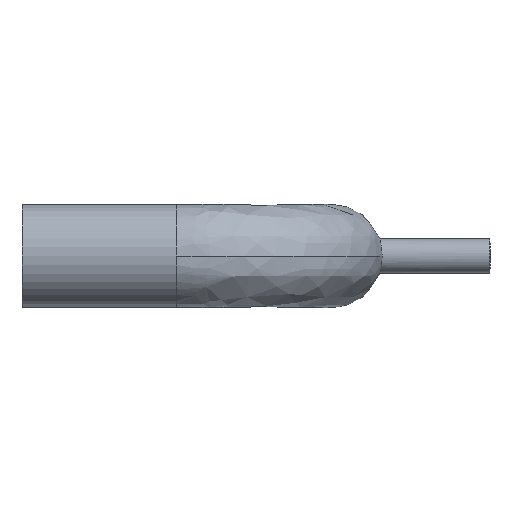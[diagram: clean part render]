
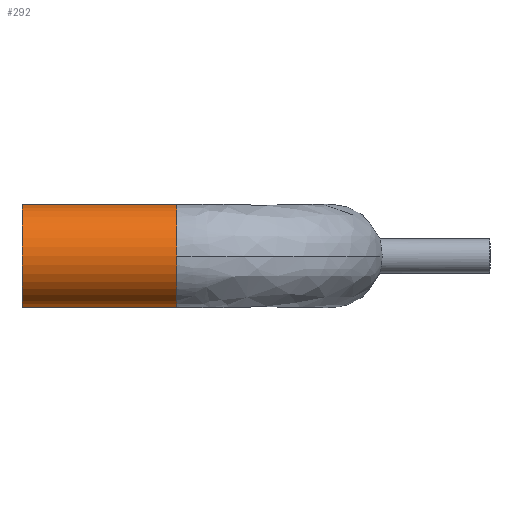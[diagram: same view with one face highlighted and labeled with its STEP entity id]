
A CAD part, left-side view. The second image highlights one B-rep face of the part: STEP entity #292.
In plain terms, the highlighted cylindrical face has radius 19.05 mm (diameter 38.1 mm), a partial arc.
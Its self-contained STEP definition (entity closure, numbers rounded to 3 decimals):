
#10 = CARTESIAN_POINT ( 'NONE',  ( -57.15, 114.3, 19.05 ) ) ;
#47 = CIRCLE ( 'NONE', #760, 19.05 ) ;
#63 = CIRCLE ( 'NONE', #439, 19.05 ) ;
#86 = EDGE_CURVE ( 'NONE', #485, #477, #47, .T. ) ;
#110 = DIRECTION ( 'NONE',  ( 0., -1., 0. ) ) ;
#114 = CARTESIAN_POINT ( 'NONE',  ( -57.15, 114.3, -19.05 ) ) ;
#142 = VECTOR ( 'NONE', #332, 1000. ) ;
#156 = AXIS2_PLACEMENT_3D ( 'NONE', #393, #339, #684 ) ;
#160 = EDGE_CURVE ( 'NONE', #662, #485, #496, .T. ) ;
#177 = ORIENTED_EDGE ( 'NONE', *, *, #160, .T. ) ;
#189 = ORIENTED_EDGE ( 'NONE', *, *, #86, .T. ) ;
#243 = CYLINDRICAL_SURFACE ( 'NONE', #295, 19.05 ) ;
#258 = CARTESIAN_POINT ( 'NONE',  ( -57.15, 57.15, 19.05 ) ) ;
#265 = VERTEX_POINT ( 'NONE', #553 ) ;
#288 = ORIENTED_EDGE ( 'NONE', *, *, #538, .F. ) ;
#292 = ADVANCED_FACE ( 'NONE', ( #474 ), #243, .T. ) ;
#295 = AXIS2_PLACEMENT_3D ( 'NONE', #665, #503, #418 ) ;
#296 = VECTOR ( 'NONE', #319, 1000. ) ;
#319 = DIRECTION ( 'NONE',  ( 0., 1., 0. ) ) ;
#332 = DIRECTION ( 'NONE',  ( 0., 1., 0. ) ) ;
#339 = DIRECTION ( 'NONE',  ( 0., -1., 0. ) ) ;
#356 = CARTESIAN_POINT ( 'NONE',  ( -57.15, 57.15, 0. ) ) ;
#362 = DIRECTION ( 'NONE',  ( 0., -1., 0. ) ) ;
#370 = CARTESIAN_POINT ( 'NONE',  ( -57.15, 57.15, -19.05 ) ) ;
#393 = CARTESIAN_POINT ( 'NONE',  ( -57.15, 57.15, 0. ) ) ;
#406 = EDGE_CURVE ( 'NONE', #662, #646, #63, .T. ) ;
#418 = DIRECTION ( 'NONE',  ( 0., 0., 1. ) ) ;
#425 = DIRECTION ( 'NONE',  ( -1., 0., 0. ) ) ;
#439 = AXIS2_PLACEMENT_3D ( 'NONE', #356, #362, #425 ) ;
#474 = FACE_OUTER_BOUND ( 'NONE', #852, .T. ) ;
#477 = VERTEX_POINT ( 'NONE', #114 ) ;
#485 = VERTEX_POINT ( 'NONE', #10 ) ;
#489 = CARTESIAN_POINT ( 'NONE',  ( -57.15, 57.15, 19.05 ) ) ;
#496 = LINE ( 'NONE', #258, #296 ) ;
#503 = DIRECTION ( 'NONE',  ( 0., 1., 0. ) ) ;
#506 = LINE ( 'NONE', #370, #142 ) ;
#521 = DIRECTION ( 'NONE',  ( 0., 0., 1. ) ) ;
#529 = CARTESIAN_POINT ( 'NONE',  ( -76.2, 57.15, 0. ) ) ;
#537 = EDGE_CURVE ( 'NONE', #646, #265, #705, .T. ) ;
#538 = EDGE_CURVE ( 'NONE', #265, #477, #506, .T. ) ;
#553 = CARTESIAN_POINT ( 'NONE',  ( -57.15, 57.15, -19.05 ) ) ;
#585 = ORIENTED_EDGE ( 'NONE', *, *, #537, .F. ) ;
#591 = CARTESIAN_POINT ( 'NONE',  ( -57.15, 114.3, 0. ) ) ;
#646 = VERTEX_POINT ( 'NONE', #529 ) ;
#662 = VERTEX_POINT ( 'NONE', #489 ) ;
#665 = CARTESIAN_POINT ( 'NONE',  ( -57.15, 57.15, 0. ) ) ;
#684 = DIRECTION ( 'NONE',  ( -1., 0., 0. ) ) ;
#705 = CIRCLE ( 'NONE', #156, 19.05 ) ;
#746 = ORIENTED_EDGE ( 'NONE', *, *, #406, .F. ) ;
#760 = AXIS2_PLACEMENT_3D ( 'NONE', #591, #110, #521 ) ;
#852 = EDGE_LOOP ( 'NONE', ( #288, #585, #746, #177, #189 ) ) ;
